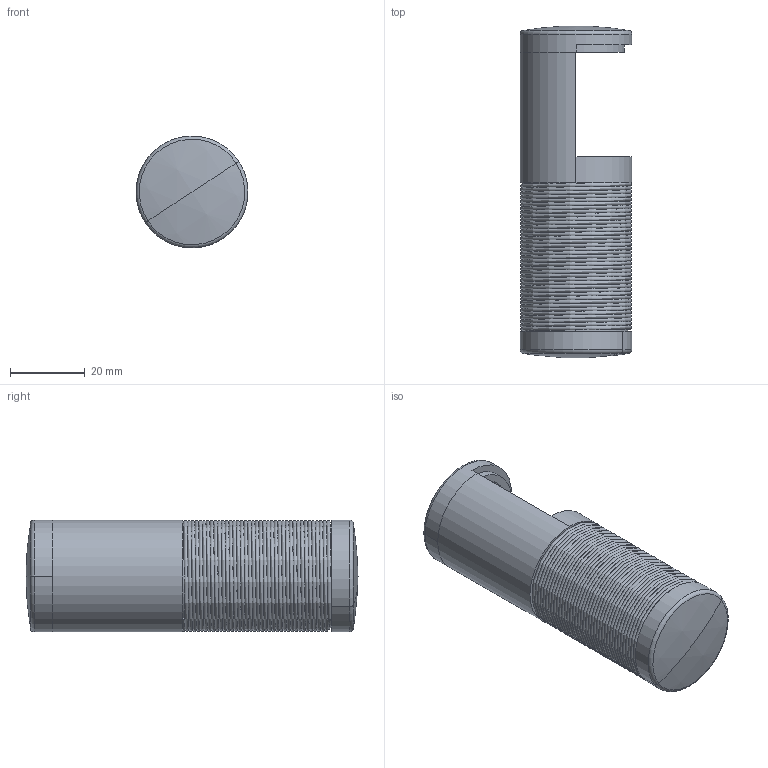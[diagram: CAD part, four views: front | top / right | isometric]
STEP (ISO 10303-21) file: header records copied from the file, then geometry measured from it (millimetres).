
FILE_DESCRIPTION (( 'STEP AP214' ), '1' );
FILE_NAME ('AssiemeRocchetto_2.STEP', '2016-02-27T15:30:48', ( '' ), ( '' ), 'SwSTEP 2.0', 'SolidWorks 2012', '' );
FILE_SCHEMA (( 'AUTOMOTIVE_DESIGN' ));
Length unit declared in the file: millimetre
Products named in the file (8): G12; G_4; G_7_2SLDPRT; G_6SLDPRT; G_5; G_6_UPSLDPRT; G_3; AssiemeRocchetto_2
Assembly tree (10 placements, depth 2):
  AssiemeRocchetto_2
    G_7_2SLDPRT
    G_6_UPSLDPRT
    G_6SLDPRT
    G_5  x4
    G_4
    G12
    G_3
Bounding box: 30 x 89.1 x 30 mm (x, y, z)
Volume: 18050.4 mm3; surface area: 31797.1 mm2
Topology: 10 solids, 10 shells, 251 faces, 660 edges, 436 vertices
Faces by surface type: cylinder 128, plane 79, bspline 32, sphere 8, torus 4
Entity records: 23443 total; most frequent: CARTESIAN_POINT 18685, ORIENTED_EDGE 1068, DIRECTION 768, EDGE_CURVE 534, VERTEX_POINT 352, AXIS2_PLACEMENT_3D 272, LINE 224, VECTOR 224
